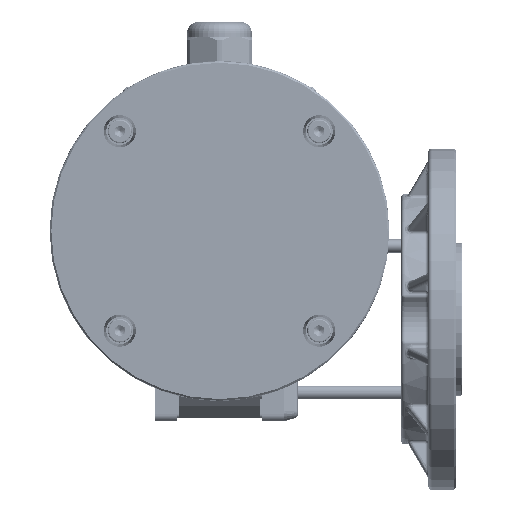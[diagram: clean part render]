
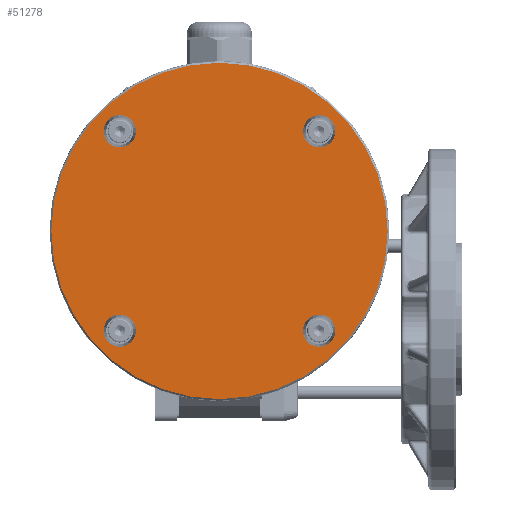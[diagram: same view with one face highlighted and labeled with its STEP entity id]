
A CAD part, left-side view. The second image highlights one B-rep face of the part: STEP entity #51278.
In plain terms, the highlighted planar face has unit normal (-1, 0, 0).
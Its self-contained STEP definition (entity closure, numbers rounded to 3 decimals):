
#10279=PLANE('',#56199);
#12553=FACE_BOUND('',#18304,.T.);
#12554=FACE_BOUND('',#18305,.T.);
#12555=FACE_BOUND('',#18306,.T.);
#12556=FACE_BOUND('',#18307,.T.);
#14705=FACE_OUTER_BOUND('',#18303,.T.);
#18303=EDGE_LOOP('',(#44030));
#18304=EDGE_LOOP('',(#44031));
#18305=EDGE_LOOP('',(#44032));
#18306=EDGE_LOOP('',(#44033));
#18307=EDGE_LOOP('',(#44034));
#21159=CIRCLE('',#56085,4.75);
#21162=CIRCLE('',#56091,4.75);
#21165=CIRCLE('',#56097,4.75);
#21168=CIRCLE('',#56103,4.75);
#21196=CIRCLE('',#56198,49.5);
#25465=VERTEX_POINT('',#86488);
#25468=VERTEX_POINT('',#86497);
#25471=VERTEX_POINT('',#86506);
#25474=VERTEX_POINT('',#86515);
#25545=VERTEX_POINT('',#87077);
#31787=EDGE_CURVE('',#25465,#25465,#21159,.T.);
#31790=EDGE_CURVE('',#25468,#25468,#21162,.T.);
#31793=EDGE_CURVE('',#25471,#25471,#21165,.T.);
#31796=EDGE_CURVE('',#25474,#25474,#21168,.T.);
#31912=EDGE_CURVE('',#25545,#25545,#21196,.T.);
#44030=ORIENTED_EDGE('',*,*,#31912,.F.);
#44031=ORIENTED_EDGE('',*,*,#31787,.T.);
#44032=ORIENTED_EDGE('',*,*,#31790,.T.);
#44033=ORIENTED_EDGE('',*,*,#31793,.T.);
#44034=ORIENTED_EDGE('',*,*,#31796,.T.);
#51278=ADVANCED_FACE('',(#14705,#12553,#12554,#12555,#12556),#10279,.F.);
#56085=AXIS2_PLACEMENT_3D('',#86489,#68553,#68554);
#56091=AXIS2_PLACEMENT_3D('',#86498,#68565,#68566);
#56097=AXIS2_PLACEMENT_3D('',#86507,#68577,#68578);
#56103=AXIS2_PLACEMENT_3D('',#86516,#68589,#68590);
#56198=AXIS2_PLACEMENT_3D('',#87078,#68839,#68840);
#56199=AXIS2_PLACEMENT_3D('',#87079,#68841,#68842);
#68553=DIRECTION('center_axis',(1.,0.,0.));
#68554=DIRECTION('ref_axis',(0.,0.707,0.707));
#68565=DIRECTION('center_axis',(1.,0.,0.));
#68566=DIRECTION('ref_axis',(0.,0.707,-0.707));
#68577=DIRECTION('center_axis',(1.,0.,0.));
#68578=DIRECTION('ref_axis',(0.,-0.707,-0.707));
#68589=DIRECTION('center_axis',(1.,0.,0.));
#68590=DIRECTION('ref_axis',(0.,-0.707,0.707));
#68839=DIRECTION('center_axis',(1.,0.,0.));
#68840=DIRECTION('ref_axis',(0.,0.,
-1.));
#68841=DIRECTION('center_axis',(1.,0.,0.));
#68842=DIRECTION('ref_axis',(0.,0.,-1.));
#86488=CARTESIAN_POINT('',(-59.,32.704,32.704));
#86489=CARTESIAN_POINT('Origin',(-59.,29.345,29.345));
#86497=CARTESIAN_POINT('',(-59.,32.704,-32.704));
#86498=CARTESIAN_POINT('Origin',(-59.,29.345,-29.345));
#86506=CARTESIAN_POINT('',(-59.,-32.704,-32.704));
#86507=CARTESIAN_POINT('Origin',(-59.,-29.345,-29.345));
#86515=CARTESIAN_POINT('',(-59.,-32.704,32.704));
#86516=CARTESIAN_POINT('Origin',(-59.,-29.345,29.345));
#87077=CARTESIAN_POINT('',(-59.,0.,49.5));
#87078=CARTESIAN_POINT('Origin',(-59.,0.,0.));
#87079=CARTESIAN_POINT('Origin',(-59.,0.,0.));
